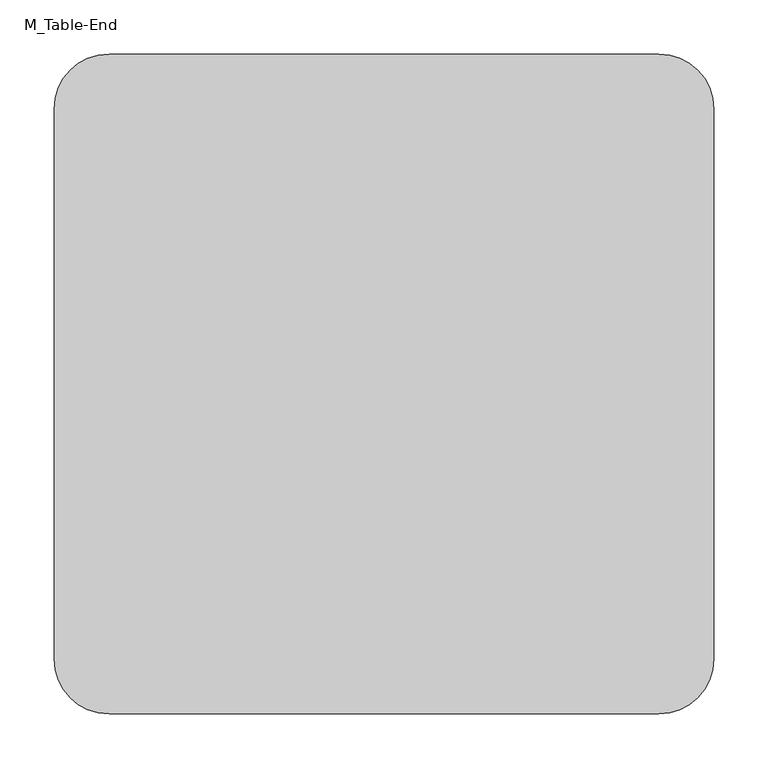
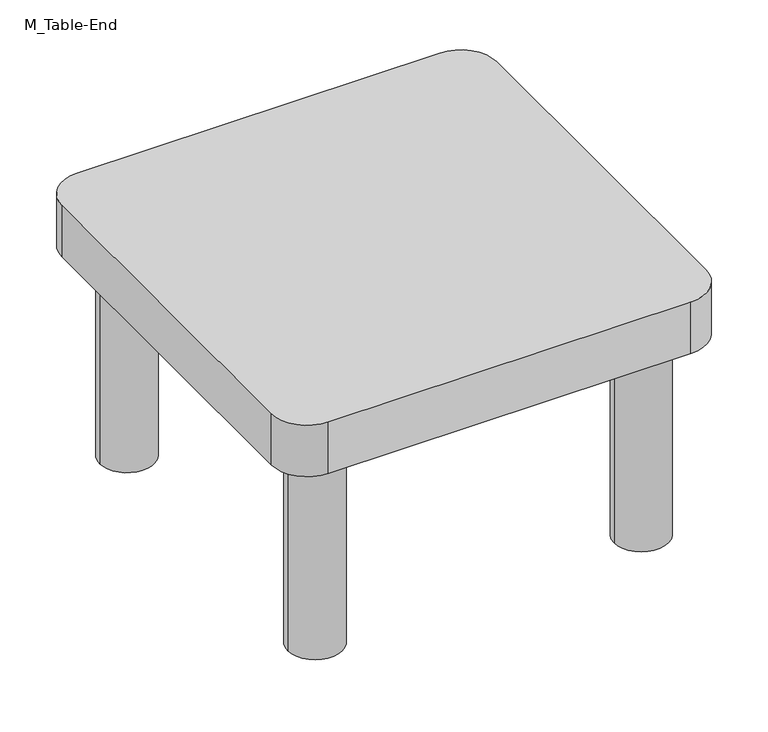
"""IFC4 building model written with IfcOpenShell, lengths in millimetres: furniture geometry, M_Table-End : 0610 x 0160mm altered height."""

from ifc_helpers import new_model, si_unit, point, frame, frame_2d, origin, origin_with_axes, place, context, project, spatial, polyline, circle_curve, trimmed, segment, composite_curve, outline, extrude, source, transform, mapped, element, save


def m_table_end_aa2764bc(model_context):
    return source(origin(), model_context, "Body", "SweptSolid", [
        extrude(outline(composite_curve([segment(trimmed(circle_curve(frame_2d((562.9336303, 101.8)), 50.8), [point((562.9336303, 152.6))], [point((613.7336303, 101.8))], False, "CARTESIAN"), True, "CONTINUOUS"), segment(polyline([(613.7336303, 101.8), (613.7336303, -406.6)]), True, "CONTINUOUS"), segment(trimmed(circle_curve(frame_2d((562.9336303, -406.6)), 50.8), [point((613.7336303, -406.6))], [point((562.9336303, -457.4))], False, "CARTESIAN"), True, "CONTINUOUS"), segment(polyline([(562.9336303, -457.4), (54.5336303, -457.4)]), True, "CONTINUOUS"), segment(trimmed(circle_curve(frame_2d((54.5336303, -406.6)), 50.8), [point((54.5336303, -457.4))], [point((3.7336303, -406.6))], False, "CARTESIAN"), True, "CONTINUOUS"), segment(polyline([(3.7336303, -406.6), (3.7336303, 101.8)]), True, "CONTINUOUS"), segment(trimmed(circle_curve(frame_2d((54.5336303, 101.8)), 50.8), [point((3.7336303, 101.8))], [point((54.5336303, 152.6))], False, "CARTESIAN"), True, "CONTINUOUS"), segment(polyline([(54.5336303, 152.6), (562.9336303, 152.6)]), True, "CONTINUOUS")], self_intersect=False)), frame((0.0, 0.0, 304.8), z_axis=(0.0, 0.0, 1.0), x_axis=(1.0, 0.0, 0.0)), (0.0, 0.0, 1.0), 76.2),
        extrude(outline(composite_curve([segment(trimmed(circle_curve(frame_2d((79.9336303, -381.2)), 38.1), [point((41.8336303, -381.2))], [point((118.0336303, -381.2))], False, "CARTESIAN"), True, "CONTINUOUS"), segment(trimmed(circle_curve(frame_2d((79.9336303, -381.2)), 38.1), [point((118.0336303, -381.2))], [point((41.8336303, -381.2))], False, "CARTESIAN"), True, "CONTINUOUS")], self_intersect=False)), origin_with_axes(), (0.0, 0.0, 1.0), 304.8),
        extrude(outline(composite_curve([segment(trimmed(circle_curve(frame_2d((79.9336303, 76.4)), 38.1), [point((41.8336303, 76.4))], [point((118.0336303, 76.4))], False, "CARTESIAN"), True, "CONTINUOUS"), segment(trimmed(circle_curve(frame_2d((79.9336303, 76.4)), 38.1), [point((118.0336303, 76.4))], [point((41.8336303, 76.4))], False, "CARTESIAN"), True, "CONTINUOUS")], self_intersect=False)), origin_with_axes(), (0.0, 0.0, 1.0), 304.8),
        extrude(outline(composite_curve([segment(trimmed(circle_curve(frame_2d((537.5336303, 76.4)), 38.1), [point((499.4336303, 76.4))], [point((575.6336303, 76.4))], False, "CARTESIAN"), True, "CONTINUOUS"), segment(trimmed(circle_curve(frame_2d((537.5336303, 76.4)), 38.1), [point((575.6336303, 76.4))], [point((499.4336303, 76.4))], False, "CARTESIAN"), True, "CONTINUOUS")], self_intersect=False)), origin_with_axes(), (0.0, 0.0, 1.0), 304.8),
        extrude(outline(composite_curve([segment(trimmed(circle_curve(frame_2d((537.5336303, -381.2)), 38.1), [point((499.4336303, -381.2))], [point((575.6336303, -381.2))], False, "CARTESIAN"), True, "CONTINUOUS"), segment(trimmed(circle_curve(frame_2d((537.5336303, -381.2)), 38.1), [point((575.6336303, -381.2))], [point((499.4336303, -381.2))], False, "CARTESIAN"), True, "CONTINUOUS")], self_intersect=False)), origin_with_axes(), (0.0, 0.0, 1.0), 304.8),
    ])


if __name__ == "__main__":
    model = new_model("IFC4")
    model_context = context("Model", 3, world=origin())
    ifc_project = project(units=[si_unit("LENGTHUNIT", "METRE", prefix="MILLI")], contexts=[model_context])
    site = spatial("IfcSite", under=ifc_project)
    building = spatial("IfcBuilding", under=site)
    placement = place(None, origin())
    m_table_end_shape = m_table_end_aa2764bc(model_context)
    element("IfcFurniture", 1, ObjectType="M_Table-End : 0610 x 0160mm altered height", at=placement, inside=building, context=model_context, shape_type="MappedRepresentation", body=[
        mapped(m_table_end_shape, transform((0.0, 0.0, 0.0), x_axis=(1.0, 0.0, 0.0), y_axis=(0.0, 1.0, 0.0), z_axis=(0.0, 0.0, 1.0))),
    ])
    save(model, "model.ifc")
